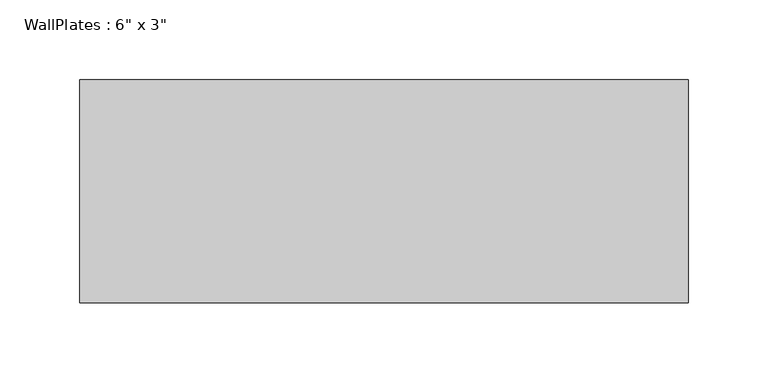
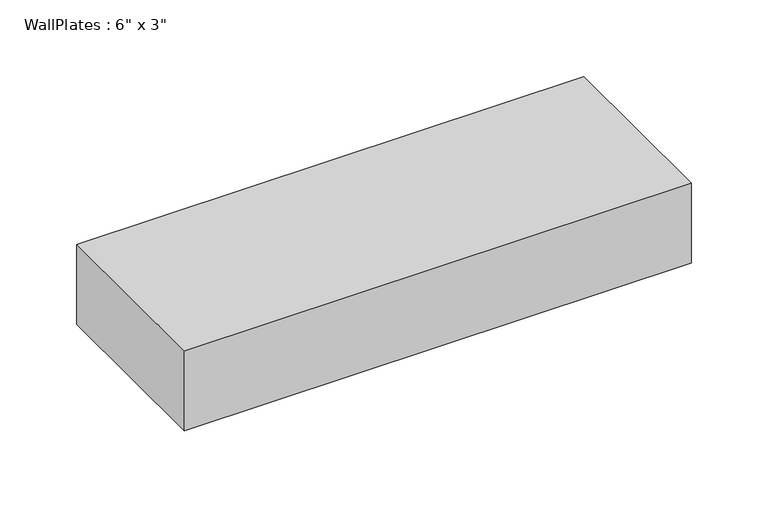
"""IFC4 building model written with IfcOpenShell, lengths in millimetres: beam geometry."""

from ifc_helpers import new_model, si_unit, frame, origin, place, context, project, spatial, polyline, outline, extrude, source, transform, mapped, element, save


def beam_aca249a6(model_context):
    return source(origin(), model_context, "Body", "SweptSolid", [
        extrude(outline(polyline([(-190.505, -69.85), (-190.505, 69.85), (190.505, 69.85), (190.505, -69.85), (-190.505, -69.85)])), frame((0.0, 0.0, -31.75), z_axis=(0.0, 0.0, 1.0), x_axis=(1.0, 0.0, 0.0)), (0.0, 0.0, 1.0), 63.5),
    ])


if __name__ == "__main__":
    model = new_model("IFC4")
    model_context = context("Model", 3, world=origin())
    ifc_project = project(units=[si_unit("LENGTHUNIT", "METRE", prefix="MILLI")], contexts=[model_context])
    site = spatial("IfcSite", under=ifc_project)
    building = spatial("IfcBuilding", under=site)
    placement = place(None, origin())
    beam_shape = beam_aca249a6(model_context)
    element("IfcBeam", 1, ObjectType="WallPlates : 6\" x 3\"", at=placement, inside=building, context=model_context, shape_type="MappedRepresentation", body=[
        mapped(beam_shape, transform((0.0, 0.0, 0.0), x_axis=(1.0, 0.0, 0.0), y_axis=(0.0, 1.0, 0.0), z_axis=(0.0, 0.0, 1.0))),
    ])
    save(model, "model.ifc")
